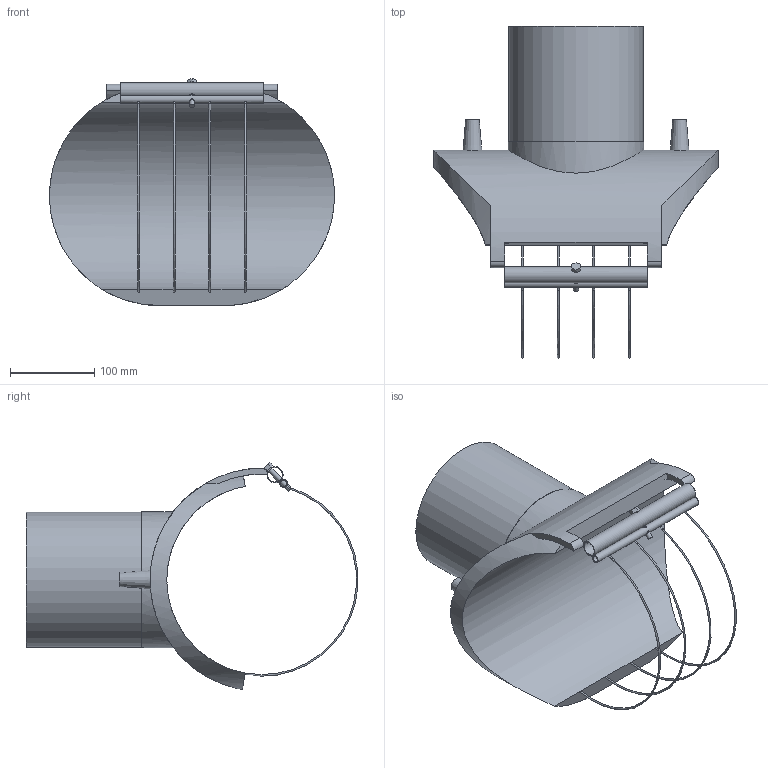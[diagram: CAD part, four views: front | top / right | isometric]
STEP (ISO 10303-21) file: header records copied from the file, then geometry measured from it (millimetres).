
FILE_DESCRIPTION(/* description */ ('Plasson Branch Saddle 225x160'),/* implementation_level */ '2;1');
FILE_NAME(/* name */ 'C:\Dropbox\KIMPROJECTS-Inventor 2019\99-16-3568-Processing\ElectroFusion Fittings\4958X4\4958X4225160T.stp',/* time_stamp */ '2025-05-07T12:15:38+03:00',/* author */ ('KIM'),/* organization */ (''),/* preprocessor_version */ 'ST-DEVELOPER v18.1',/* originating_system */ 'Autodesk Inventor 2021',/* authorisation */ '');
FILE_SCHEMA (('AUTOMOTIVE_DESIGN { 1 0 10303 214 3 1 1 }'));
Length unit declared in the file: millimetre
Products named in the file (1): 4958X4225160T
Bounding box: 338 x 393.71 x 269.42 mm (x, y, z)
Volume: 2977136.9 mm3; surface area: 411320 mm2
Topology: 1 solids, 1 shells, 63 faces, 174 edges, 113 vertices
Faces by surface type: cylinder 28, plane 25, torus 8, cone 2
Full cylindrical faces by diameter (mm): 6 x3, 7.6 x1, 8 x1, 16 x1, 17.2 x1, 131 x1, 160 x1, 161 x1
Entity records: 2917 total; most frequent: CARTESIAN_POINT 1248, ORIENTED_EDGE 352, DIRECTION 323, EDGE_CURVE 176, AXIS2_PLACEMENT_3D 131, VERTEX_POINT 113, EDGE_LOOP 83, FACE_OUTER_BOUND 63
